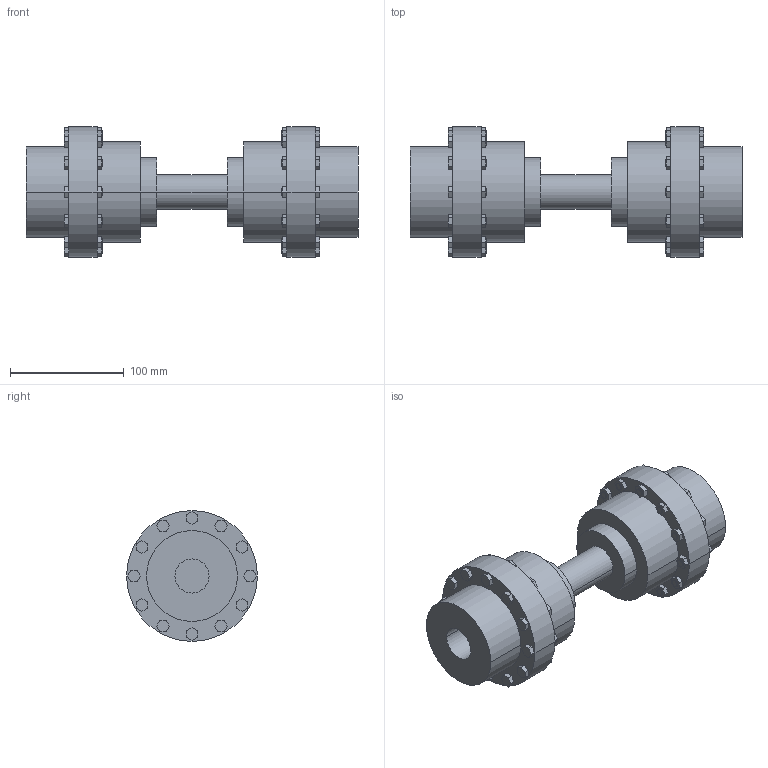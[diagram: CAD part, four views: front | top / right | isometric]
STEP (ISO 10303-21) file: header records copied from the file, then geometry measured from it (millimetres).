
FILE_DESCRIPTION((''),'2;1');
FILE_NAME('A19073900-0_ASM','2018-11-28T',('AB_Roschiwal'),('RENK AG'),'PRO/ENGINEER BY PARAMETRIC TECHNOLOGY CORPORATION, 2015440','PRO/ENGINEER BY PARAMETRIC TECHNOLOGY CORPORATION, 2015440','');
FILE_SCHEMA(('CONFIG_CONTROL_DESIGN'));
Length unit declared in the file: millimetre
Products named in the file (4): LBGK38_GEHAEUSE; LBGK38_NABE; LBGK38_WELLE; A19073900-0_ASM
Assembly tree (5 placements, depth 2):
  A19073900-0_ASM
    LBGK38_GEHAEUSE  x2
    LBGK38_NABE  x2
    LBGK38_WELLE
Bounding box: 292 x 115 x 115 mm (x, y, z)
Volume: 1434230.2 mm3; surface area: 223505.5 mm2
Topology: 5 solids, 5 shells, 484 faces, 1158 edges, 772 vertices
Faces by surface type: plane 386, cylinder 98
Entity records: 7138 total; most frequent: CARTESIAN_POINT 1223, DIRECTION 1188, ORIENTED_EDGE 1164, EDGE_CURVE 582, VECTOR 482, LINE 482, VERTEX_POINT 388, AXIS2_PLACEMENT_3D 353
